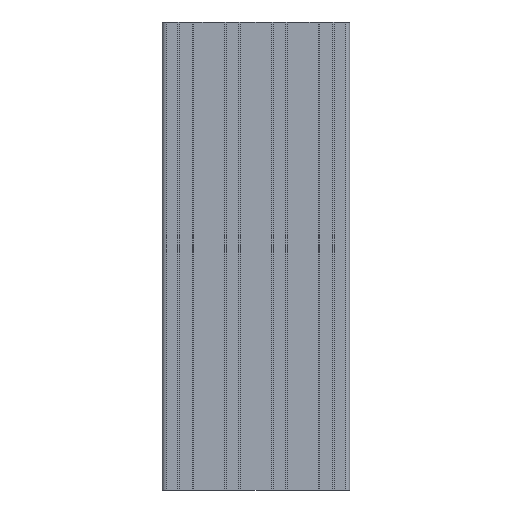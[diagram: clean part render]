
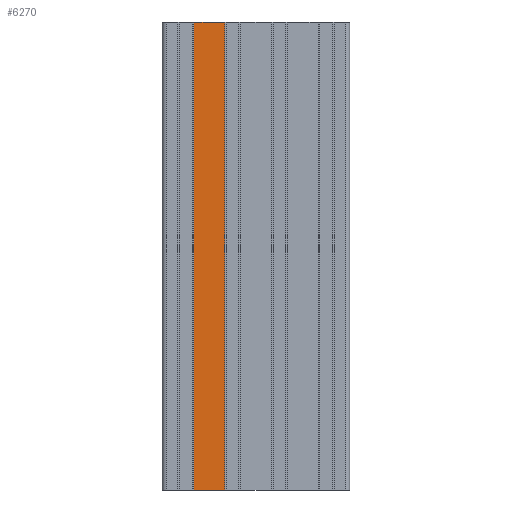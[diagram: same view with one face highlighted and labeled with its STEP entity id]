
A CAD part, front view. The second image highlights one B-rep face of the part: STEP entity #6270.
In plain terms, the highlighted planar face has unit normal (0, -1, 0).
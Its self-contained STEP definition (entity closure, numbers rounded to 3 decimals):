
#113 = ORIENTED_EDGE ( 'NONE', *, *, #3781, .F. ) ;
#223 = EDGE_CURVE ( 'NONE', #1021, #1957, #4918, .T. ) ;
#369 = VECTOR ( 'NONE', #4415, 1000. ) ;
#736 = DIRECTION ( 'NONE',  ( 0., 0., -1. ) ) ;
#893 = VERTEX_POINT ( 'NONE', #6724 ) ;
#1021 = VERTEX_POINT ( 'NONE', #2124 ) ;
#1115 = EDGE_CURVE ( 'NONE', #893, #3355, #6475, .T. ) ;
#1440 = CARTESIAN_POINT ( 'NONE',  ( -39.9, -15., 150. ) ) ;
#1686 = DIRECTION ( 'NONE',  ( 1., 0., 0. ) ) ;
#1957 = VERTEX_POINT ( 'NONE', #2684 ) ;
#2124 = CARTESIAN_POINT ( 'NONE',  ( -39.9, -15., 150. ) ) ;
#2201 = VECTOR ( 'NONE', #2345, 1000. ) ;
#2345 = DIRECTION ( 'NONE',  ( 1., 0., 0. ) ) ;
#2382 = CARTESIAN_POINT ( 'NONE',  ( -30., -15., 150. ) ) ;
#2442 = DIRECTION ( 'NONE',  ( 0., 0., 1. ) ) ;
#2684 = CARTESIAN_POINT ( 'NONE',  ( -39.9, -15., -150. ) ) ;
#2844 = ORIENTED_EDGE ( 'NONE', *, *, #3691, .T. ) ;
#3051 = CARTESIAN_POINT ( 'NONE',  ( -20.1, -15., -150. ) ) ;
#3087 = LINE ( 'NONE', #2382, #5872 ) ;
#3149 = DIRECTION ( 'NONE',  ( 0., 1., 0. ) ) ;
#3251 = EDGE_LOOP ( 'NONE', ( #2844, #5435, #113, #4262 ) ) ;
#3355 = VERTEX_POINT ( 'NONE', #5971 ) ;
#3691 = EDGE_CURVE ( 'NONE', #1957, #3355, #3741, .T. ) ;
#3741 = LINE ( 'NONE', #3051, #2201 ) ;
#3781 = EDGE_CURVE ( 'NONE', #1021, #893, #3087, .T. ) ;
#3837 = CARTESIAN_POINT ( 'NONE',  ( -20.1, -15., 150. ) ) ;
#4262 = ORIENTED_EDGE ( 'NONE', *, *, #223, .T. ) ;
#4415 = DIRECTION ( 'NONE',  ( 0., 0., -1. ) ) ;
#4561 = FACE_OUTER_BOUND ( 'NONE', #3251, .T. ) ;
#4909 = AXIS2_PLACEMENT_3D ( 'NONE', #3837, #3149, #2442 ) ;
#4918 = LINE ( 'NONE', #1440, #6587 ) ;
#5112 = CARTESIAN_POINT ( 'NONE',  ( -20.1, -15., 150. ) ) ;
#5223 = PLANE ( 'NONE',  #4909 ) ;
#5435 = ORIENTED_EDGE ( 'NONE', *, *, #1115, .F. ) ;
#5872 = VECTOR ( 'NONE', #1686, 1000. ) ;
#5971 = CARTESIAN_POINT ( 'NONE',  ( -20.1, -15., -150. ) ) ;
#6270 = ADVANCED_FACE ( 'NONE', ( #4561 ), #5223, .F. ) ;
#6475 = LINE ( 'NONE', #5112, #369 ) ;
#6587 = VECTOR ( 'NONE', #736, 1000. ) ;
#6724 = CARTESIAN_POINT ( 'NONE',  ( -20.1, -15., 150. ) ) ;
